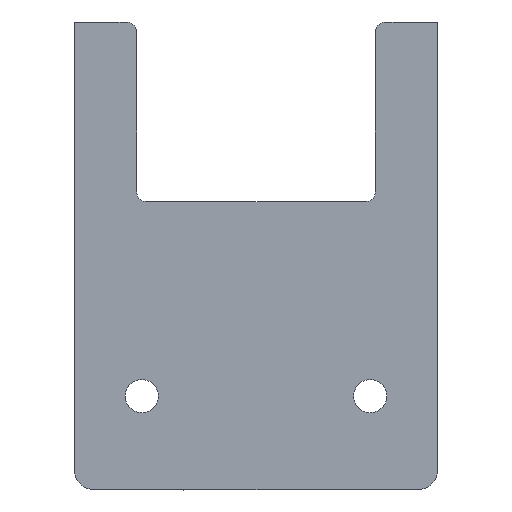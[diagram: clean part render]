
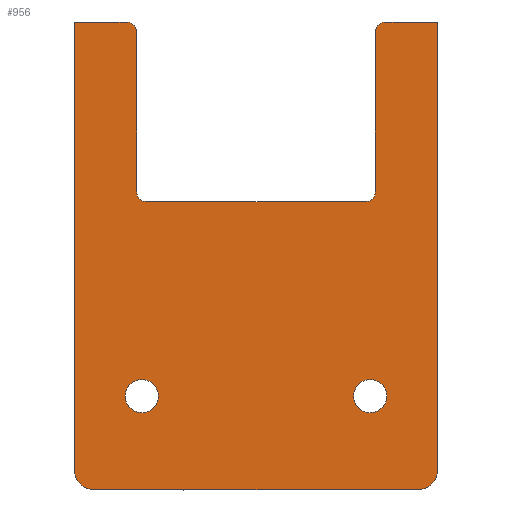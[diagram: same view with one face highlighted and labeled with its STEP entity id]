
A CAD part, top view. The second image highlights one B-rep face of the part: STEP entity #956.
In plain terms, the highlighted planar face has unit normal (0, 0, 1).
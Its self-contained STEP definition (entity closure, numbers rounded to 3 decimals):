
#57=FACE_BOUND('',#179,.T.);
#58=FACE_BOUND('',#180,.T.);
#75=PLANE('',#1063);
#121=FACE_OUTER_BOUND('',#178,.T.);
#178=EDGE_LOOP('',(#814,#815,#816,#817,#818,#819,#820,#821,#822,#823,#824,
#825,#826,#827));
#179=EDGE_LOOP('',(#828));
#180=EDGE_LOOP('',(#829));
#216=LINE('',#1443,#293);
#224=LINE('',#1464,#301);
#226=LINE('',#1471,#303);
#251=LINE('',#1716,#328);
#252=LINE('',#1720,#329);
#253=LINE('',#1724,#330);
#254=LINE('',#1727,#331);
#255=LINE('',#1728,#332);
#293=VECTOR('',#1143,10.);
#301=VECTOR('',#1161,10.);
#303=VECTOR('',#1169,10.);
#328=VECTOR('',#1300,10.);
#329=VECTOR('',#1303,10.);
#330=VECTOR('',#1306,10.);
#331=VECTOR('',#1309,10.);
#332=VECTOR('',#1310,10.);
#352=CIRCLE('',#992,2.);
#365=CIRCLE('',#1009,2.);
#388=CIRCLE('',#1060,1.);
#389=CIRCLE('',#1064,1.);
#390=CIRCLE('',#1065,1.);
#391=CIRCLE('',#1066,1.);
#392=CIRCLE('',#1067,1.6);
#393=CIRCLE('',#1068,1.6);
#396=VERTEX_POINT('',#1387);
#397=VERTEX_POINT('',#1388);
#422=VERTEX_POINT('',#1442);
#430=VERTEX_POINT('',#1462);
#431=VERTEX_POINT('',#1466);
#432=VERTEX_POINT('',#1470);
#466=VERTEX_POINT('',#1704);
#467=VERTEX_POINT('',#1705);
#471=VERTEX_POINT('',#1715);
#472=VERTEX_POINT('',#1717);
#473=VERTEX_POINT('',#1719);
#474=VERTEX_POINT('',#1721);
#475=VERTEX_POINT('',#1723);
#476=VERTEX_POINT('',#1725);
#477=VERTEX_POINT('',#1729);
#478=VERTEX_POINT('',#1731);
#486=EDGE_CURVE('',#396,#397,#352,.T.);
#513=EDGE_CURVE('',#422,#397,#216,.T.);
#525=EDGE_CURVE('',#396,#430,#224,.F.);
#526=EDGE_CURVE('',#422,#431,#365,.T.);
#528=EDGE_CURVE('',#432,#431,#226,.F.);
#587=EDGE_CURVE('',#466,#467,#388,.T.);
#592=EDGE_CURVE('',#430,#471,#251,.T.);
#593=EDGE_CURVE('',#472,#471,#389,.T.);
#594=EDGE_CURVE('',#473,#472,#252,.T.);
#595=EDGE_CURVE('',#474,#473,#390,.T.);
#596=EDGE_CURVE('',#475,#474,#253,.T.);
#597=EDGE_CURVE('',#476,#475,#391,.T.);
#598=EDGE_CURVE('',#476,#467,#254,.T.);
#599=EDGE_CURVE('',#466,#432,#255,.T.);
#600=EDGE_CURVE('',#477,#477,#392,.T.);
#601=EDGE_CURVE('',#478,#478,#393,.T.);
#814=ORIENTED_EDGE('',*,*,#486,.F.);
#815=ORIENTED_EDGE('',*,*,#525,.T.);
#816=ORIENTED_EDGE('',*,*,#592,.T.);
#817=ORIENTED_EDGE('',*,*,#593,.F.);
#818=ORIENTED_EDGE('',*,*,#594,.F.);
#819=ORIENTED_EDGE('',*,*,#595,.F.);
#820=ORIENTED_EDGE('',*,*,#596,.F.);
#821=ORIENTED_EDGE('',*,*,#597,.F.);
#822=ORIENTED_EDGE('',*,*,#598,.T.);
#823=ORIENTED_EDGE('',*,*,#587,.F.);
#824=ORIENTED_EDGE('',*,*,#599,.T.);
#825=ORIENTED_EDGE('',*,*,#528,.T.);
#826=ORIENTED_EDGE('',*,*,#526,.F.);
#827=ORIENTED_EDGE('',*,*,#513,.T.);
#828=ORIENTED_EDGE('',*,*,#600,.T.);
#829=ORIENTED_EDGE('',*,*,#601,.T.);
#956=ADVANCED_FACE('',(#121,#57,#58),#75,.T.);
#992=AXIS2_PLACEMENT_3D('',#1389,#1103,#1104);
#1009=AXIS2_PLACEMENT_3D('',#1467,#1164,#1165);
#1060=AXIS2_PLACEMENT_3D('',#1706,#1290,#1291);
#1063=AXIS2_PLACEMENT_3D('',#1714,#1298,#1299);
#1064=AXIS2_PLACEMENT_3D('',#1718,#1301,#1302);
#1065=AXIS2_PLACEMENT_3D('',#1722,#1304,#1305);
#1066=AXIS2_PLACEMENT_3D('',#1726,#1307,#1308);
#1067=AXIS2_PLACEMENT_3D('',#1730,#1311,#1312);
#1068=AXIS2_PLACEMENT_3D('',#1732,#1313,#1314);
#1103=DIRECTION('center_axis',(0.,0.,
-1.));
#1104=DIRECTION('ref_axis',(0.707,-0.707,0.));
#1143=DIRECTION('',(1.,0.,0.));
#1161=DIRECTION('',(0.,-1.,0.));
#1164=DIRECTION('center_axis',(0.,0.,
-1.));
#1165=DIRECTION('ref_axis',(-0.707,-0.707,0.));
#1169=DIRECTION('',(0.,1.,0.));
#1290=DIRECTION('center_axis',(0.,0.,
-1.));
#1291=DIRECTION('ref_axis',(0.,1.,0.));
#1298=DIRECTION('center_axis',(0.,0.,
1.));
#1299=DIRECTION('ref_axis',(-1.,0.,0.));
#1300=DIRECTION('',(-1.,0.,0.));
#1301=DIRECTION('center_axis',(0.,0.,
-1.));
#1302=DIRECTION('ref_axis',(-1.,0.,0.));
#1303=DIRECTION('',(0.,1.,0.));
#1304=DIRECTION('center_axis',(0.,0.,
1.));
#1305=DIRECTION('ref_axis',(0.707,-0.707,0.));
#1306=DIRECTION('',(1.,0.,0.));
#1307=DIRECTION('center_axis',(0.,0.,
1.));
#1308=DIRECTION('ref_axis',(-0.707,-0.707,0.));
#1309=DIRECTION('',(0.,1.,0.));
#1310=DIRECTION('',(-1.,0.,0.));
#1311=DIRECTION('center_axis',(0.,0.,
-1.));
#1312=DIRECTION('ref_axis',(-1.,0.,0.));
#1313=DIRECTION('center_axis',(0.,0.,
-1.));
#1314=DIRECTION('ref_axis',(-1.,0.,0.));
#1387=CARTESIAN_POINT('',(-2.5,-54.227,-1.65));
#1388=CARTESIAN_POINT('',(-4.5,-56.227,-1.65));
#1389=CARTESIAN_POINT('Origin',(-4.5,-54.227,-1.65));
#1442=CARTESIAN_POINT('',(-35.5,-56.227,-1.65));
#1443=CARTESIAN_POINT('',(-33.5,-56.227,-1.65));
#1462=CARTESIAN_POINT('',(-2.5,-11.2,-1.65));
#1464=CARTESIAN_POINT('',(-2.5,-22.457,-1.65));
#1466=CARTESIAN_POINT('',(-37.5,-54.227,-1.65));
#1467=CARTESIAN_POINT('Origin',(-35.5,-54.227,-1.65));
#1470=CARTESIAN_POINT('',(-37.5,-11.2,-1.65));
#1471=CARTESIAN_POINT('',(-37.5,-43.971,-1.65));
#1704=CARTESIAN_POINT('',(-32.5,-11.2,-1.65));
#1705=CARTESIAN_POINT('',(-31.5,-12.2,-1.65));
#1706=CARTESIAN_POINT('Origin',(-32.5,-12.2,-1.65));
#1714=CARTESIAN_POINT('Origin',(-20.,-33.714,-1.65));
#1715=CARTESIAN_POINT('',(-7.5,-11.2,-1.65));
#1716=CARTESIAN_POINT('',(-4.5,-11.2,-1.65));
#1717=CARTESIAN_POINT('',(-8.5,-12.2,-1.65));
#1718=CARTESIAN_POINT('Origin',(-7.5,-12.2,-1.65));
#1719=CARTESIAN_POINT('',(-8.5,-27.5,-1.65));
#1720=CARTESIAN_POINT('',(-8.5,-28.5,-1.65));
#1721=CARTESIAN_POINT('',(-9.5,-28.5,-1.65));
#1722=CARTESIAN_POINT('Origin',(-9.5,-27.5,-1.65));
#1723=CARTESIAN_POINT('',(-30.5,-28.5,-1.65));
#1724=CARTESIAN_POINT('',(-20.,-28.5,-1.65));
#1725=CARTESIAN_POINT('',(-31.5,-27.5,-1.65));
#1726=CARTESIAN_POINT('Origin',(-30.5,-27.5,-1.65));
#1727=CARTESIAN_POINT('',(-31.5,-28.5,-1.65));
#1728=CARTESIAN_POINT('',(-31.948,-11.2,-1.65));
#1729=CARTESIAN_POINT('',(-7.4,-47.2,-1.65));
#1730=CARTESIAN_POINT('Origin',(-9.,-47.2,-1.65));
#1731=CARTESIAN_POINT('',(-29.4,-47.2,-1.65));
#1732=CARTESIAN_POINT('Origin',(-31.,-47.2,-1.65));
